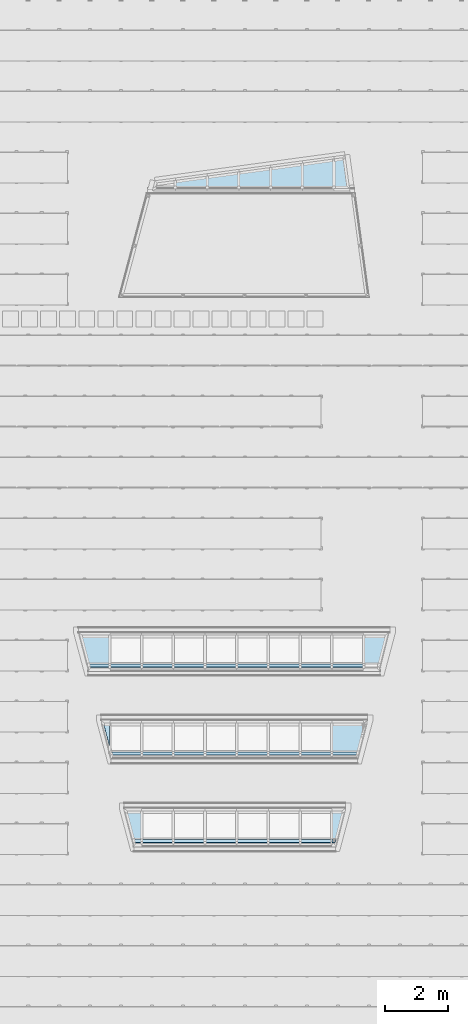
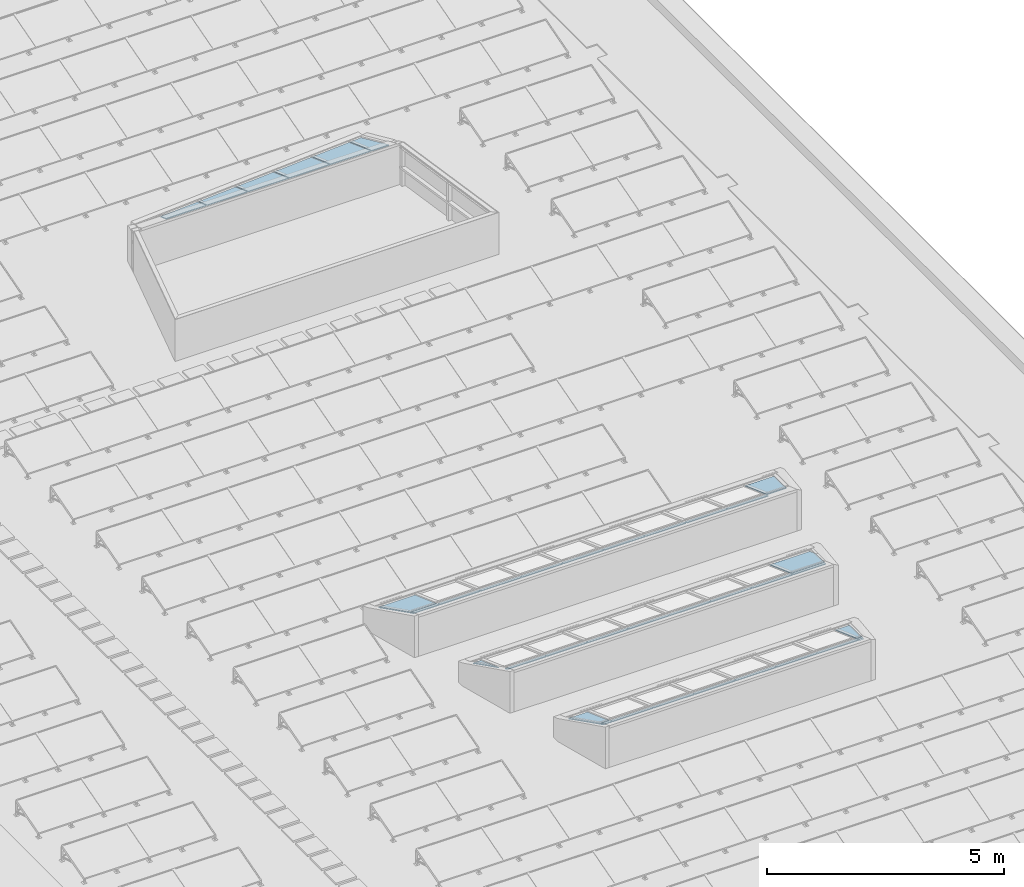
# One storey, part 5 of 20: 37 plates, 4 elements without a shape of their own.
"""IFC2X3 building model written with IfcOpenShell, lengths in millimetres."""

from ifc_helpers import new_model, entity, si_unit, converted_unit, derived_unit, money_unit, direction, frame, origin_with_axes, place, context, subcontext, project, spatial, faceted_brep, source, transform, mapped, material, type_object, type_shapes, element, aggregate, save


model = new_model("IFC2X3")

# Units and contexts
model_context = context("Model", 3, precision=0.01, world=origin_with_axes(), true_north=direction((0.0, 1.0)))
plan_context = context("Plan", 3, precision=0.01, world=origin_with_axes(), true_north=direction((0.0, 1.0)))
body_context = subcontext(model_context, "Body", "Model", "MODEL_VIEW")
ifc_project = project(units=[si_unit("LENGTHUNIT", "METRE", prefix="MILLI"), si_unit("AREAUNIT", "SQUARE_METRE"), si_unit("VOLUMEUNIT", "CUBIC_METRE"), converted_unit("PLANEANGLEUNIT", "DEGREE", entity("IfcPlaneAngleMeasure", 0.0174532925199), si_unit("PLANEANGLEUNIT", "RADIAN"), dimensions=[0, 0, 0, 0, 0, 0, 0]), si_unit("SOLIDANGLEUNIT", "STERADIAN"), money_unit("EUR"), converted_unit("TIMEUNIT", "Year", entity("IfcTimeMeasure", 31556926.0), si_unit("TIMEUNIT", "SECOND"), dimensions=[0, 0, 1, 0, 0, 0, 0]), si_unit("MASSUNIT", "GRAM", prefix="KILO"), si_unit("THERMODYNAMICTEMPERATUREUNIT", "DEGREE_CELSIUS"), si_unit("LUMINOUSINTENSITYUNIT", "LUMEN"), si_unit("ENERGYUNIT", "JOULE", prefix="MEGA"), derived_unit("THERMALCONDUCTANCEUNIT", [(si_unit("POWERUNIT", "WATT"), 1), (si_unit("LENGTHUNIT", "METRE"), -1), (si_unit("THERMODYNAMICTEMPERATUREUNIT", "KELVIN"), -1)]), derived_unit("SPECIFICHEATCAPACITYUNIT", [(si_unit("ENERGYUNIT", "JOULE"), 1), (si_unit("MASSUNIT", "GRAM", prefix="KILO"), -1), (si_unit("THERMODYNAMICTEMPERATUREUNIT", "KELVIN"), -1)]), derived_unit("MASSDENSITYUNIT", [(si_unit("MASSUNIT", "GRAM", prefix="KILO"), 1), (si_unit("VOLUMEUNIT", "CUBIC_METRE"), -1)])], contexts=[model_context, plan_context])

# Site, building, storey
site_placement = place(None, origin_with_axes())
site = spatial("IfcSite", under=ifc_project, at=site_placement, Name="Site", CompositionType="ELEMENT")
building_placement = place(site_placement, origin_with_axes())
building = spatial("IfcBuilding", under=site, at=building_placement, Name="Naam gebouw", CompositionType="ELEMENT")
storey_placement = place(building_placement, frame((0.0, 0.0, 7920.0), z_axis=(0.0, 0.0, 1.0), x_axis=(1.0, 0.0, 0.0)))
storey = spatial("IfcBuildingStorey", under=building, at=storey_placement, Name="2e verdieping", CompositionType="ELEMENT", Elevation=7920.0)

# Curtain wall, plates
curtain_wall_type = type_object("IfcCurtainWallType", Name="Curtain Wall Type", PredefinedType="NOTDEFINED")
curtain_wall_1_placement = place(storey_placement, frame((19106.1234546, 39361.8774302, 819.822664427), z_axis=(0.0, 0.0, 1.0), x_axis=(1.0, 0.0, 0.0)))
curtain_wall_1 = element("IfcCurtainWall", 1, at=curtain_wall_1_placement, inside=storey, type_object=curtain_wall_type, Name="21_Vliesgevel_Wand-x")
ifc_material_1 = material(Name="Glas")
plate_type_1 = type_object("IfcPlateType", Name="Main Panel 980 x 680 x 20", PredefinedType="CURTAIN_PANEL")
plate_1_placement = place(curtain_wall_1_placement, frame((0.0, 0.0, 236.578246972), z_axis=(0.0, 0.0, 1.0), x_axis=(-1.0, 0.0, 0.0)))
plate_1 = element("IfcPlate", 2, at=plate_1_placement, type_object=plate_type_1, material=ifc_material_1, Name="_Vliesgevel - paneel_Paneel-x", ObjectType="CURTAIN_PANEL", context=body_context, shape_type="Brep", body=[
    faceted_brep([(-490.0, 356.217328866, 119.010726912), (-490.0, 349.376925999, 137.804579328), (490.0, 349.376925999, 137.804579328), (490.0, 356.217328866, 119.010726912), (-490.0, -415.256299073, -161.782710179), (-490.0, -422.09670194, -142.988857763), (490.0, -289.366939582, -94.6791750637), (490.0, -282.526536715, -113.473027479)], [[[0, 1, 2, 3]], [[4, 5, 1, 0]], [[1, 5, 6, 2]], [[3, 2, 6, 7]], [[0, 3, 7, 4]], [[7, 6, 5, 4]]]),
])
plate_type_2 = type_object("IfcPlateType", Name="Main Panel 980 x 824 x 20", PredefinedType="CURTAIN_PANEL")
plate_2_placement = place(curtain_wall_1_placement, frame((1000.0, 67.7192747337, 211.930446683), z_axis=(0.0, 0.0, 1.0), x_axis=(-1.0, 0.0, 0.0)))
plate_2 = element("IfcPlate", 3, at=plate_2_placement, type_object=plate_type_2, material=ifc_material_1, Name="_Vliesgevel - paneel_Paneel-x", ObjectType="CURTAIN_PANEL", context=body_context, shape_type="Brep", body=[
    faceted_brep([(-490.000000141, 423.936605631, 143.658527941), (-490.000000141, 417.096202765, 162.452380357), (489.999999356, 417.096202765, 162.452380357), (489.999999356, 423.936605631, 143.658527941), (-490.000000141, -482.975600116, -186.430520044), (-490.000000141, -489.816002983, -167.636667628), (489.999999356, -357.086176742, -119.326961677), (489.999999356, -350.245773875, -138.120814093)], [[[0, 1, 2, 3]], [[4, 5, 1, 0]], [[1, 5, 6, 2]], [[3, 2, 6, 7]], [[0, 3, 7, 4]], [[7, 6, 5, 4]]]),
])
plate_type_3 = type_object("IfcPlateType", Name="Main Panel 423 x 968 x 20", PredefinedType="CURTAIN_PANEL")
plate_3_placement = place(curtain_wall_1_placement, frame((1709.25403566, 113.342371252, 195.324997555), z_axis=(0.0, 0.0, 1.0), x_axis=(-1.0, 0.0, 0.0)))
plate_3 = element("IfcPlate", 4, at=plate_3_placement, type_object=plate_type_3, material=ifc_material_1, Name="_Vliesgevel - paneel_Paneel-x", ObjectType="CURTAIN_PANEL", context=body_context, shape_type="Brep", body=[
    faceted_brep([(-223.577201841, 469.55968355, 160.263970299), (-223.577201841, 462.719280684, 179.057822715), (199.25403106, 462.719296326, 179.057828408), (199.25403106, 469.559699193, 160.263975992), (-94.9821160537, -479.912174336, -185.315524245), (-94.9821160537, -486.752577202, -166.521671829), (199.25403106, -446.901673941, -152.017129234), (199.25403106, -440.061271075, -170.810981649)], [[[0, 1, 2, 3]], [[4, 5, 1, 0]], [[1, 5, 6, 2]], [[3, 2, 6, 7]], [[0, 3, 7, 4]], [[7, 6, 5, 4]]]),
])
plate_type_4 = type_object("IfcPlateType", Name="Main Panel 980 x 536 x 20", PredefinedType="CURTAIN_PANEL")
plate_4_placement = place(curtain_wall_1_placement, frame((-1000.0, -67.7192577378, 261.226041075), z_axis=(0.0, 0.0, 1.0), x_axis=(-1.0, 0.0, 0.0)))
plate_4 = element("IfcPlate", 5, at=plate_4_placement, type_object=plate_type_4, material=ifc_material_1, Name="_Vliesgevel - paneel_Paneel-x", ObjectType="CURTAIN_PANEL", context=body_context, shape_type="Brep", body=[
    faceted_brep([(-490.0, 288.498077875, 94.3629352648), (-490.0, 281.657675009, 113.156787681), (490.0, 281.657675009, 113.156787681), (490.0, 288.498077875, 94.3629352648), (-490.0, -347.537041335, -137.134916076), (-490.0, -354.377444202, -118.34106366), (490.0, -221.647681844, -70.0313809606), (490.0, -214.807278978, -88.8252333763)], [[[0, 1, 2, 3]], [[4, 5, 1, 0]], [[1, 5, 6, 2]], [[3, 2, 6, 7]], [[0, 3, 7, 4]], [[7, 6, 5, 4]]]),
])
plate_type_5 = type_object("IfcPlateType", Name="Main Panel 980 x 247 x 20", PredefinedType="CURTAIN_PANEL")
plate_5_placement = place(curtain_wall_1_placement, frame((-3000.0, -203.157772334, 310.521628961), z_axis=(0.0, 0.0, 1.0), x_axis=(-1.0, 0.0, 0.0)))
plate_5 = element("IfcPlate", 6, at=plate_5_placement, type_object=plate_type_5, material=ifc_material_1, Name="_Vliesgevel - paneel_Paneel-x", ObjectType="CURTAIN_PANEL", context=body_context, shape_type="Brep", body=[
    faceted_brep([(-490.0, 153.059562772, 45.0673471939), (-490.0, 146.219159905, 63.8611996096), (490.0, 146.219159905, 63.8611996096), (490.0, 153.059562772, 45.0673471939), (-490.0, -212.09852498, -87.8393275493), (-490.0, -218.938927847, -69.0454751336), (490.0, -86.2091654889, -20.7357924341), (490.0, -79.3687626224, -39.5296448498)], [[[0, 1, 2, 3]], [[4, 5, 1, 0]], [[1, 5, 6, 2]], [[3, 2, 6, 7]], [[0, 3, 7, 4]], [[7, 6, 5, 4]]]),
])
plate_type_6 = type_object("IfcPlateType", Name="Main Panel 980 x 391 x 20", PredefinedType="CURTAIN_PANEL")
plate_6_placement = place(curtain_wall_1_placement, frame((-2000.0, -135.438515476, 285.873835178), z_axis=(0.0, 0.0, 1.0), x_axis=(-1.0, 0.0, 0.0)))
plate_6 = element("IfcPlate", 7, at=plate_6_placement, type_object=plate_type_6, material=ifc_material_1, Name="_Vliesgevel - paneel_Paneel-x", ObjectType="CURTAIN_PANEL", context=body_context, shape_type="Brep", body=[
    faceted_brep([(-490.0, 220.778812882, 69.7151385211), (-490.0, 213.938410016, 88.5089909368), (490.0, 213.938410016, 88.5089909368), (490.0, 220.778812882, 69.7151385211), (-490.0, -279.817783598, -112.487121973), (-490.0, -286.658186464, -93.6932695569), (490.0, -153.928424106, -45.3835868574), (490.0, -147.08802124, -64.1774392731)], [[[0, 1, 2, 3]], [[4, 5, 1, 0]], [[1, 5, 6, 2]], [[3, 2, 6, 7]], [[0, 3, 7, 4]], [[7, 6, 5, 4]]]),
])
aggregate(curtain_wall_1, [plate_1, plate_2, plate_3, plate_4, plate_5, plate_6])

curtain_wall_2_placement = place(storey_placement, frame((13117.0960946, 24464.1241022, 780.165825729), z_axis=(0.0, 0.0, 1.0), x_axis=(1.0, 0.0, 0.0)))
curtain_wall_2 = element("IfcCurtainWall", 8, at=curtain_wall_2_placement, inside=storey, type_object=curtain_wall_type, Name="21_Vliesgevel_Wand-x")
plate_type_7 = type_object("IfcPlateType", Name="Main Panel 897 x 972 x 20", PredefinedType="CURTAIN_PANEL")
plate_7_placement = place(curtain_wall_2_placement, frame((0.0, 0.0, 175.675530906), z_axis=(0.0, 0.0, 1.0), x_axis=(-1.0, 0.0, 0.0)))
plate_7 = element("IfcPlate", 9, at=plate_7_placement, type_object=plate_type_7, material=ifc_material_1, Name="_Vliesgevel - paneel_Paneel-x", ObjectType="CURTAIN_PANEL", context=body_context, shape_type="Brep", body=[
    faceted_brep([(-412.028729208, 481.38631681, 164.568512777), (-412.028729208, 474.545913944, 183.362365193), (244.542459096, 474.545913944, 183.362365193), (244.542459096, 481.38631681, 164.568512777), (-412.028729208, -432.259751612, -167.971460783), (-412.028729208, -439.100154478, -149.177608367), (485.348411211, -439.100140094, -149.177603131), (485.348411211, -432.259737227, -167.971455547)], [[[0, 1, 2, 3]], [[4, 5, 1, 0]], [[1, 5, 6, 2]], [[3, 2, 6, 7]], [[0, 3, 7, 4]], [[7, 6, 5, 4]]]),
])
plate_type_8 = type_object("IfcPlateType", Name="Main Panel 477 x 972 x 20", PredefinedType="CURTAIN_PANEL")
plate_8_placement = place(curtain_wall_2_placement, frame((8751.81492856, -8.1607645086e-06, 175.675533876), z_axis=(0.0, 0.0, 1.0), x_axis=(-1.0, 0.0, 0.0)))
plate_8 = element("IfcPlate", 10, at=plate_8_placement, type_object=plate_type_8, material=ifc_material_1, Name="_Vliesgevel - paneel_Paneel-x", ObjectType="CURTAIN_PANEL", context=body_context, shape_type="Brep", body=[
    faceted_brep([(-157.45969636, 481.386308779, 164.568509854), (-157.45969636, 474.545905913, 183.36236227), (319.786191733, 474.545905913, 183.36236227), (319.786191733, 481.386308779, 164.568509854), (-388.626103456, -432.259734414, -167.971454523), (-388.626103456, -439.10013728, -149.177602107), (319.786191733, -439.10013728, -149.177602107), (319.786191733, -432.259734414, -167.971454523)], [[[0, 1, 2, 3]], [[4, 5, 1, 0]], [[1, 5, 6, 2]], [[3, 2, 6, 7]], [[0, 3, 7, 4]], [[7, 6, 5, 4]]]),
])

# Curtain wall, plate
curtain_wall_3_placement = place(storey_placement, frame((20039.1248272, 18928.1634329, 780.165825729), z_axis=(0.0, 0.0, 1.0), x_axis=(1.0, 0.0, 0.0)))
curtain_wall_3 = element("IfcCurtainWall", 11, at=curtain_wall_3_placement, inside=storey, type_object=curtain_wall_type, Name="21_Vliesgevel_Wand-x")
plate_9_placement = place(curtain_wall_3_placement, frame((-5711.67201613, -1.77234120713e-05, 175.675535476), z_axis=(0.0, 0.0, 1.0), x_axis=(-1.0, 0.0, 0.0)))
plate_9 = element("IfcPlate", 12, at=plate_9_placement, type_object=plate_type_8, material=ifc_material_1, Name="_Vliesgevel - paneel_Paneel-x", ObjectType="CURTAIN_PANEL", context=body_context, shape_type="Brep", body=[
    faceted_brep([(-201.672020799, 481.386304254, 164.568508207), (-201.672020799, 474.545901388, 183.362360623), (34.1857609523, 474.545901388, 183.362360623), (34.1857609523, 481.386304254, 164.568508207), (-201.672020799, -432.259764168, -167.971465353), (-201.672020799, -439.100167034, -149.177612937), (274.991667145, -439.100109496, -149.177591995), (274.991667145, -432.25970663, -167.971444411)], [[[0, 1, 2, 3]], [[4, 5, 1, 0]], [[1, 5, 6, 2]], [[3, 2, 6, 7]], [[0, 3, 7, 4]], [[7, 6, 5, 4]]]),
])

# Plate
plate_type_9 = type_object("IfcPlateType", Name="Main Panel 654 x 100 x 20", PredefinedType="CURTAIN_PANEL")
plate_10_placement = place(curtain_wall_2_placement, frame((73.2026246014, -555.478614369, 377.853212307), z_axis=(0.0, 0.0, 1.0), x_axis=(-1.0, 0.0, 0.0)))
plate_10 = element("IfcPlate", 13, at=plate_10_placement, type_object=plate_type_9, material=ifc_material_1, Name="_Vliesgevel - paneel_Paneel-x", ObjectType="CURTAIN_PANEL", context=body_context, shape_type="Brep", body=[
    faceted_brep([(-338.826106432, 29.2496039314, 0.00420747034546), (-338.826106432, 22.4092010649, 18.7980598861), (290.507648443, 22.4092010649, 18.7980598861), (290.507648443, 29.2496039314, 0.00420747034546), (-338.826106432, -64.6953735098, -34.1889679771), (-338.826106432, -71.5357763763, -15.3951155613), (315.26837188, -71.5357763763, -15.3951155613), (315.26837188, -64.6953735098, -34.1889679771)], [[[0, 1, 2, 3]], [[4, 5, 1, 0]], [[1, 5, 6, 2]], [[3, 2, 6, 7]], [[0, 3, 7, 4]], [[7, 6, 5, 4]]]),
])

ifc_material_2 = material(Name="Metaal - Aluminium")
plate_type_10 = type_object("IfcPlateType", Name="Distinct Panel 980 x 100 x 20", PredefinedType="CURTAIN_PANEL")
shared_shape_1 = source(origin_with_axes(), body_context, "Body", "Brep", [
    faceted_brep([(-990.0, 104.974131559, -10.0), (-990.0, 104.974131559, 10.0), (-10.0, 104.974146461, 10.0), (-10.0, 104.974146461, -10.0), (-990.0, 5.0, -10.0), (-990.0, 5.0, 10.0), (-10.0, 5.0, 10.0), (-10.0, 5.0, -10.0)], [[[0, 1, 2, 3]], [[4, 5, 1, 0]], [[1, 5, 6, 2]], [[3, 2, 6, 7]], [[0, 3, 7, 4]], [[7, 6, 5, 4]]]),
])
type_shapes(plate_type_10, [shared_shape_1])
plate_11_placement = place(curtain_wall_2_placement, frame((922.028732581, -555.478608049, 377.853210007), z_axis=(0.0, 0.0, 1.0), x_axis=(-1.0, 0.0, 0.0)))
plate_11 = element("IfcPlate", 14, at=plate_11_placement, type_object=plate_type_10, material=ifc_material_2, Name="_Vliesgevel - paneel_Paneel-x", ObjectType="CURTAIN_PANEL", context=body_context, shape_type="MappedRepresentation", body=[
    mapped(shared_shape_1, transform((500.0, -72.8140274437, -26.5021386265), x_axis=(1.0, 0.0, 0.0), y_axis=(0.0, 0.939692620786, 0.342020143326), z_axis=(0.0, -0.342020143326, 0.939692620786))),
])

plate_12_placement = place(curtain_wall_2_placement, frame((2922.02873258, -555.478601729, 377.853207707), z_axis=(0.0, 0.0, 1.0), x_axis=(-1.0, 0.0, 0.0)))
plate_12 = element("IfcPlate", 15, at=plate_12_placement, type_object=plate_type_10, material=ifc_material_2, Name="_Vliesgevel - paneel_Paneel-x", ObjectType="CURTAIN_PANEL", context=body_context, shape_type="MappedRepresentation", body=[
    mapped(shared_shape_1, transform((500.0, -72.8140211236, -26.5021363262), x_axis=(1.0, 0.0, 0.0), y_axis=(0.0, 0.939692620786, 0.342020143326), z_axis=(0.0, -0.342020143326, 0.939692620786))),
])

plate_13_placement = place(curtain_wall_2_placement, frame((4922.02873258, -555.478601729, 377.853207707), z_axis=(0.0, 0.0, 1.0), x_axis=(-1.0, 0.0, 0.0)))
plate_13 = element("IfcPlate", 16, at=plate_13_placement, type_object=plate_type_10, material=ifc_material_2, Name="_Vliesgevel - paneel_Paneel-x", ObjectType="CURTAIN_PANEL", context=body_context, shape_type="MappedRepresentation", body=[
    mapped(shared_shape_1, transform((500.0, -72.8140211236, -26.5021363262), x_axis=(1.0, 0.0, 0.0), y_axis=(0.0, 0.939692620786, 0.342020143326), z_axis=(0.0, -0.342020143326, 0.939692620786))),
])

plate_14_placement = place(curtain_wall_2_placement, frame((6922.02873258, -555.478601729, 377.853207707), z_axis=(0.0, 0.0, 1.0), x_axis=(-1.0, 0.0, 0.0)))
plate_14 = element("IfcPlate", 17, at=plate_14_placement, type_object=plate_type_10, material=ifc_material_2, Name="_Vliesgevel - paneel_Paneel-x", ObjectType="CURTAIN_PANEL", context=body_context, shape_type="MappedRepresentation", body=[
    mapped(shared_shape_1, transform((500.0, -72.8140211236, -26.5021363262), x_axis=(1.0, 0.0, 0.0), y_axis=(0.0, 0.939692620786, 0.342020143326), z_axis=(0.0, -0.342020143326, 0.939692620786))),
])

# Curtain wall, plates
curtain_wall_4_placement = place(storey_placement, frame((20039.1248272, 21694.0652432, 780.165825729), z_axis=(0.0, 0.0, 1.0), x_axis=(1.0, 0.0, 0.0)))
curtain_wall_4 = element("IfcCurtainWall", 18, at=curtain_wall_4_placement, inside=storey, type_object=curtain_wall_type, Name="21_Vliesgevel_Wand-x")
plate_15_placement = place(curtain_wall_4_placement, frame((0.0, -555.478606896, 377.853207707), z_axis=(0.0, 0.0, 1.0), x_axis=(-1.0, 0.0, 0.0)))
plate_15 = element("IfcPlate", 19, at=plate_15_placement, type_object=plate_type_10, material=ifc_material_2, Name="_Vliesgevel - paneel_Paneel-x", ObjectType="CURTAIN_PANEL", context=body_context, shape_type="MappedRepresentation", body=[
    mapped(shared_shape_1, transform((500.0, -72.8140211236, -26.5021363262), x_axis=(1.0, 0.0, 0.0), y_axis=(0.0, 0.939692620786, 0.342020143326), z_axis=(0.0, -0.342020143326, 0.939692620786))),
])
plate_16_placement = place(curtain_wall_4_placement, frame((-2000.0, -555.478606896, 377.853207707), z_axis=(0.0, 0.0, 1.0), x_axis=(-1.0, 0.0, 0.0)))
plate_16 = element("IfcPlate", 20, at=plate_16_placement, type_object=plate_type_10, material=ifc_material_2, Name="_Vliesgevel - paneel_Paneel-x", ObjectType="CURTAIN_PANEL", context=body_context, shape_type="MappedRepresentation", body=[
    mapped(shared_shape_1, transform((500.0, -72.8140211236, -26.5021363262), x_axis=(1.0, 0.0, 0.0), y_axis=(0.0, 0.939692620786, 0.342020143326), z_axis=(0.0, -0.342020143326, 0.939692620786))),
])
plate_17_placement = place(curtain_wall_4_placement, frame((-4000.0, -555.478606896, 377.853207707), z_axis=(0.0, 0.0, 1.0), x_axis=(-1.0, 0.0, 0.0)))
plate_17 = element("IfcPlate", 21, at=plate_17_placement, type_object=plate_type_10, material=ifc_material_2, Name="_Vliesgevel - paneel_Paneel-x", ObjectType="CURTAIN_PANEL", context=body_context, shape_type="MappedRepresentation", body=[
    mapped(shared_shape_1, transform((500.0, -72.8140211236, -26.5021363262), x_axis=(1.0, 0.0, 0.0), y_axis=(0.0, 0.939692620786, 0.342020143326), z_axis=(0.0, -0.342020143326, 0.939692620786))),
])

# Plate
plate_18_placement = place(curtain_wall_3_placement, frame((0.0, -555.478606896, 377.853207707), z_axis=(0.0, 0.0, 1.0), x_axis=(-1.0, 0.0, 0.0)))
plate_18 = element("IfcPlate", 22, at=plate_18_placement, type_object=plate_type_10, material=ifc_material_2, Name="_Vliesgevel - paneel_Paneel-x", ObjectType="CURTAIN_PANEL", context=body_context, shape_type="MappedRepresentation", body=[
    mapped(shared_shape_1, transform((500.0, -72.8140211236, -26.5021363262), x_axis=(1.0, 0.0, 0.0), y_axis=(0.0, 0.939692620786, 0.342020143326), z_axis=(0.0, -0.342020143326, 0.939692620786))),
])

plate_19_placement = place(curtain_wall_3_placement, frame((-2000.0, -555.478606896, 377.853207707), z_axis=(0.0, 0.0, 1.0), x_axis=(-1.0, 0.0, 0.0)))
plate_19 = element("IfcPlate", 23, at=plate_19_placement, type_object=plate_type_10, material=ifc_material_2, Name="_Vliesgevel - paneel_Paneel-x", ObjectType="CURTAIN_PANEL", context=body_context, shape_type="MappedRepresentation", body=[
    mapped(shared_shape_1, transform((500.0, -72.8140211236, -26.5021363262), x_axis=(1.0, 0.0, 0.0), y_axis=(0.0, 0.939692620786, 0.342020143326), z_axis=(0.0, -0.342020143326, 0.939692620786))),
])

plate_20_placement = place(curtain_wall_3_placement, frame((-4000.0, -555.478606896, 377.853207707), z_axis=(0.0, 0.0, 1.0), x_axis=(-1.0, 0.0, 0.0)))
plate_20 = element("IfcPlate", 24, at=plate_20_placement, type_object=plate_type_10, material=ifc_material_2, Name="_Vliesgevel - paneel_Paneel-x", ObjectType="CURTAIN_PANEL", context=body_context, shape_type="MappedRepresentation", body=[
    mapped(shared_shape_1, transform((500.0, -72.8140211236, -26.5021363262), x_axis=(1.0, 0.0, 0.0), y_axis=(0.0, 0.939692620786, 0.342020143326), z_axis=(0.0, -0.342020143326, 0.939692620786))),
])

plate_type_11 = type_object("IfcPlateType", Name="Main Panel 980 x 100 x 20", PredefinedType="CURTAIN_PANEL")
shared_shape_2 = source(origin_with_axes(), body_context, "Body", "Brep", [
    faceted_brep([(-990.0, 104.974131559, -10.0), (-990.0, 104.974131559, 10.0), (-10.0, 104.974131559, 10.0), (-10.0, 104.974131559, -10.0), (-990.0, 5.0, -10.0), (-990.0, 5.0, 10.0), (-10.0, 5.0, 10.0), (-10.0, 5.0, -10.0)], [[[0, 1, 2, 3]], [[4, 5, 1, 0]], [[1, 5, 6, 2]], [[3, 2, 6, 7]], [[0, 3, 7, 4]], [[7, 6, 5, 4]]]),
])
type_shapes(plate_type_11, [shared_shape_2])
plate_21_placement = place(curtain_wall_2_placement, frame((1922.02873258, -555.478601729, 377.853207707), z_axis=(0.0, 0.0, 1.0), x_axis=(-1.0, 0.0, 0.0)))
plate_21 = element("IfcPlate", 25, at=plate_21_placement, type_object=plate_type_11, material=ifc_material_1, Name="_Vliesgevel - paneel_Paneel-x", ObjectType="CURTAIN_PANEL", context=body_context, shape_type="MappedRepresentation", body=[
    mapped(shared_shape_2, transform((500.0, -72.8140211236, -26.5021363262), x_axis=(1.0, 0.0, 0.0), y_axis=(0.0, 0.939692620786, 0.342020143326), z_axis=(0.0, -0.342020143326, 0.939692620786))),
])

plate_22_placement = place(curtain_wall_2_placement, frame((3922.02873258, -555.478601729, 377.853207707), z_axis=(0.0, 0.0, 1.0), x_axis=(-1.0, 0.0, 0.0)))
plate_22 = element("IfcPlate", 26, at=plate_22_placement, type_object=plate_type_11, material=ifc_material_1, Name="_Vliesgevel - paneel_Paneel-x", ObjectType="CURTAIN_PANEL", context=body_context, shape_type="MappedRepresentation", body=[
    mapped(shared_shape_2, transform((500.0, -72.8140211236, -26.5021363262), x_axis=(1.0, 0.0, 0.0), y_axis=(0.0, 0.939692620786, 0.342020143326), z_axis=(0.0, -0.342020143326, 0.939692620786))),
])

plate_23_placement = place(curtain_wall_2_placement, frame((5922.02873258, -555.478601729, 377.853207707), z_axis=(0.0, 0.0, 1.0), x_axis=(-1.0, 0.0, 0.0)))
plate_23 = element("IfcPlate", 27, at=plate_23_placement, type_object=plate_type_11, material=ifc_material_1, Name="_Vliesgevel - paneel_Paneel-x", ObjectType="CURTAIN_PANEL", context=body_context, shape_type="MappedRepresentation", body=[
    mapped(shared_shape_2, transform((500.0, -72.8140211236, -26.5021363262), x_axis=(1.0, 0.0, 0.0), y_axis=(0.0, 0.939692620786, 0.342020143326), z_axis=(0.0, -0.342020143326, 0.939692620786))),
])

plate_24_placement = place(curtain_wall_2_placement, frame((7922.02873258, -555.478601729, 377.853207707), z_axis=(0.0, 0.0, 1.0), x_axis=(-1.0, 0.0, 0.0)))
plate_24 = element("IfcPlate", 28, at=plate_24_placement, type_object=plate_type_11, material=ifc_material_1, Name="_Vliesgevel - paneel_Paneel-x", ObjectType="CURTAIN_PANEL", context=body_context, shape_type="MappedRepresentation", body=[
    mapped(shared_shape_2, transform((500.0, -72.8140211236, -26.5021363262), x_axis=(1.0, 0.0, 0.0), y_axis=(0.0, 0.939692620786, 0.342020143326), z_axis=(0.0, -0.342020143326, 0.939692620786))),
])

aggregate(curtain_wall_2, [plate_7, plate_8, plate_10, plate_11, plate_21, plate_12, plate_22, plate_13, plate_23, plate_14, plate_24])

plate_25_placement = place(curtain_wall_4_placement, frame((-1000.0, -555.478606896, 377.853207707), z_axis=(0.0, 0.0, 1.0), x_axis=(-1.0, 0.0, 0.0)))
plate_25 = element("IfcPlate", 29, at=plate_25_placement, type_object=plate_type_11, material=ifc_material_1, Name="_Vliesgevel - paneel_Paneel-x", ObjectType="CURTAIN_PANEL", context=body_context, shape_type="MappedRepresentation", body=[
    mapped(shared_shape_2, transform((500.0, -72.8140211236, -26.5021363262), x_axis=(1.0, 0.0, 0.0), y_axis=(0.0, 0.939692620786, 0.342020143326), z_axis=(0.0, -0.342020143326, 0.939692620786))),
])

plate_26_placement = place(curtain_wall_4_placement, frame((-3000.0, -555.478606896, 377.853207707), z_axis=(0.0, 0.0, 1.0), x_axis=(-1.0, 0.0, 0.0)))
plate_26 = element("IfcPlate", 30, at=plate_26_placement, type_object=plate_type_11, material=ifc_material_1, Name="_Vliesgevel - paneel_Paneel-x", ObjectType="CURTAIN_PANEL", context=body_context, shape_type="MappedRepresentation", body=[
    mapped(shared_shape_2, transform((500.0, -72.8140211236, -26.5021363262), x_axis=(1.0, 0.0, 0.0), y_axis=(0.0, 0.939692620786, 0.342020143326), z_axis=(0.0, -0.342020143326, 0.939692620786))),
])

plate_27_placement = place(curtain_wall_4_placement, frame((-5000.0, -555.478606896, 377.853207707), z_axis=(0.0, 0.0, 1.0), x_axis=(-1.0, 0.0, 0.0)))
plate_27 = element("IfcPlate", 31, at=plate_27_placement, type_object=plate_type_11, material=ifc_material_1, Name="_Vliesgevel - paneel_Paneel-x", ObjectType="CURTAIN_PANEL", context=body_context, shape_type="MappedRepresentation", body=[
    mapped(shared_shape_2, transform((500.0, -72.8140211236, -26.5021363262), x_axis=(1.0, 0.0, 0.0), y_axis=(0.0, 0.939692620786, 0.342020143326), z_axis=(0.0, -0.342020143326, 0.939692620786))),
])

plate_28_placement = place(curtain_wall_3_placement, frame((-1000.0, -555.478606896, 377.853207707), z_axis=(0.0, 0.0, 1.0), x_axis=(-1.0, 0.0, 0.0)))
plate_28 = element("IfcPlate", 32, at=plate_28_placement, type_object=plate_type_11, material=ifc_material_1, Name="_Vliesgevel - paneel_Paneel-x", ObjectType="CURTAIN_PANEL", context=body_context, shape_type="MappedRepresentation", body=[
    mapped(shared_shape_2, transform((500.0, -72.8140211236, -26.5021363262), x_axis=(1.0, 0.0, 0.0), y_axis=(0.0, 0.939692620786, 0.342020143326), z_axis=(0.0, -0.342020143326, 0.939692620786))),
])

plate_29_placement = place(curtain_wall_3_placement, frame((-3000.0, -555.478606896, 377.853207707), z_axis=(0.0, 0.0, 1.0), x_axis=(-1.0, 0.0, 0.0)))
plate_29 = element("IfcPlate", 33, at=plate_29_placement, type_object=plate_type_11, material=ifc_material_1, Name="_Vliesgevel - paneel_Paneel-x", ObjectType="CURTAIN_PANEL", context=body_context, shape_type="MappedRepresentation", body=[
    mapped(shared_shape_2, transform((500.0, -72.8140211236, -26.5021363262), x_axis=(1.0, 0.0, 0.0), y_axis=(0.0, 0.939692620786, 0.342020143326), z_axis=(0.0, -0.342020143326, 0.939692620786))),
])

plate_30_placement = place(curtain_wall_3_placement, frame((-5000.0, -555.478606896, 377.853207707), z_axis=(0.0, 0.0, 1.0), x_axis=(-1.0, 0.0, 0.0)))
plate_30 = element("IfcPlate", 34, at=plate_30_placement, type_object=plate_type_11, material=ifc_material_1, Name="_Vliesgevel - paneel_Paneel-x", ObjectType="CURTAIN_PANEL", context=body_context, shape_type="MappedRepresentation", body=[
    mapped(shared_shape_2, transform((500.0, -72.8140211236, -26.5021363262), x_axis=(1.0, 0.0, 0.0), y_axis=(0.0, 0.939692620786, 0.342020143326), z_axis=(0.0, -0.342020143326, 0.939692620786))),
])

plate_type_12 = type_object("IfcPlateType", Name="Main Panel 807 x 972 x 20", PredefinedType="CURTAIN_PANEL")
plate_31_placement = place(curtain_wall_4_placement, frame((1073.40997743, 8.55958714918, 172.560094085), z_axis=(0.0, 0.0, 1.0), x_axis=(-1.0, 0.0, 0.0)))
plate_31 = element("IfcPlate", 35, at=plate_31_placement, type_object=plate_type_12, material=ifc_material_1, Name="_Vliesgevel - paneel_Paneel-x", ObjectType="CURTAIN_PANEL", context=body_context, shape_type="Brep", body=[
    faceted_brep([(-243.434908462, 489.945909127, 167.683949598), (-243.434908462, 483.10550626, 186.477802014), (563.409972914, 483.10550626, 186.477802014), (563.409972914, 489.945909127, 167.683949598), (-416.590026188, -194.420038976, -81.4048848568), (-416.590026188, -201.260441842, -62.6110324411), (-416.590026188, -430.540547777, -146.062166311), (563.409972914, -430.540562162, -146.062171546), (563.409972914, -423.700159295, -164.856023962), (-416.590026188, -423.700144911, -164.856018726)], [[[0, 1, 2, 3]], [[4, 5, 1, 0]], [[1, 5, 6, 7, 2]], [[3, 2, 7, 8]], [[0, 3, 8, 9, 4]], [[9, 6, 5, 4]], [[8, 7, 6, 9]]]),
])

plate_type_13 = type_object("IfcPlateType", Name="Main Panel 197 x 795 x 20", PredefinedType="CURTAIN_PANEL")
plate_32_placement = place(curtain_wall_4_placement, frame((-6571.78309348, -2.11804334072e-05, 175.675536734), z_axis=(0.0, 0.0, 1.0), x_axis=(-1.0, 0.0, 0.0)))
plate_32 = element("IfcPlate", 36, at=plate_32_placement, type_object=plate_type_13, material=ifc_material_1, Name="_Vliesgevel - paneel_Paneel-x", ObjectType="CURTAIN_PANEL", context=body_context, shape_type="Brep", body=[
    faceted_brep([(-61.7830978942, 314.748461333, 103.917293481), (-61.7830978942, 307.908058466, 122.711145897), (135.102761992, -439.100112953, -149.177593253), (135.102761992, -432.259710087, -167.971445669), (-61.7830978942, -432.259767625, -167.971466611), (-61.7830978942, -439.100170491, -149.177614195)], [[[0, 1, 2, 3]], [[4, 5, 1, 0]], [[1, 5, 2]], [[3, 2, 5, 4]], [[0, 3, 4]]]),
])

plate_type_14 = type_object("IfcPlateType", Name="Main Panel 781 x 100 x 20", PredefinedType="CURTAIN_PANEL")
plate_33_placement = place(curtain_wall_4_placement, frame((924.313406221, -555.478608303, 377.853208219), z_axis=(0.0, 0.0, 1.0), x_axis=(-1.0, 0.0, 0.0)))
plate_33 = element("IfcPlate", 37, at=plate_33_placement, type_object=plate_type_14, material=ifc_material_1, Name="_Vliesgevel - paneel_Paneel-x", ObjectType="CURTAIN_PANEL", context=body_context, shape_type="Brep", body=[
    faceted_brep([(-366.384389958, 29.2496016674, 0.00420664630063), (-366.384389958, 22.4091988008, 18.798059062), (414.313407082, 22.4091866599, 18.7980546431), (414.313407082, 29.2495895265, 0.00420222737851), (-390.153906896, -64.6953583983, -34.1889624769), (-390.153906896, -71.5357612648, -15.3951100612), (414.313407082, -71.5357612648, -15.3951100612), (414.313407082, -64.6953583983, -34.1889624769)], [[[0, 1, 2, 3]], [[4, 5, 1, 0]], [[1, 5, 6, 2]], [[3, 2, 6, 7]], [[0, 3, 7, 4]], [[7, 6, 5, 4]]]),
])

plate_type_15 = type_object("IfcPlateType", Name="Distinct Panel 954 x 100 x 20", PredefinedType="CURTAIN_PANEL")
plate_34_placement = place(curtain_wall_4_placement, frame((-6095.59395338, -553.324323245, 377.069112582), z_axis=(0.0, 0.0, 1.0), x_axis=(-1.0, 0.0, 0.0)))
plate_34 = element("IfcPlate", 38, at=plate_34_placement, type_object=plate_type_15, material=ifc_material_2, Name="_Vliesgevel - paneel_Paneel-x", ObjectType="CURTAIN_PANEL", context=body_context, shape_type="Brep", body=[
    faceted_brep([(-585.59395338, 31.4038769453, 0.788298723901), (-585.59395338, 24.5634740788, 19.5821511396), (343.248642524, 24.5634880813, 19.5821562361), (343.248642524, 31.4038909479, 0.788303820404), (-585.59395338, -62.5410767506, -33.4048680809), (-585.59395338, -69.3814796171, -14.6110156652), (368.009284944, -69.3814796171, -14.6110156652), (368.009284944, -62.5410767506, -33.4048680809)], [[[0, 1, 2, 3]], [[4, 5, 1, 0]], [[1, 5, 6, 2]], [[3, 2, 6, 7]], [[0, 3, 7, 4]], [[7, 6, 5, 4]]]),
])

aggregate(curtain_wall_4, [plate_31, plate_32, plate_33, plate_15, plate_25, plate_16, plate_26, plate_17, plate_27, plate_34])

plate_type_16 = type_object("IfcPlateType", Name="Main Panel 117 x 972 x 20", PredefinedType="CURTAIN_PANEL")
plate_35_placement = place(curtain_wall_3_placement, frame((649.910224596, -2.81185563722e-06, 175.675530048), z_axis=(0.0, 0.0, 1.0), x_axis=(-1.0, 0.0, 0.0)))
plate_35 = element("IfcPlate", 39, at=plate_35_placement, type_object=plate_type_16, material=ifc_material_1, Name="_Vliesgevel - paneel_Paneel-x", ObjectType="CURTAIN_PANEL", context=body_context, shape_type="Brep", body=[
    faceted_brep([(22.4162823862, 481.386319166, 164.568513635), (22.4162823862, 474.545916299, 183.36236605), (139.910220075, 474.545916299, 183.36236605), (139.910220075, 481.386319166, 164.568513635), (-208.750131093, -432.259749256, -167.971459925), (-208.750131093, -439.100152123, -149.17760751), (139.910220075, -439.100152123, -149.17760751), (139.910220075, -432.259749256, -167.971459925)], [[[0, 1, 2, 3]], [[4, 5, 1, 0]], [[1, 5, 6, 2]], [[3, 2, 6, 7]], [[0, 3, 7, 4]], [[7, 6, 5, 4]]]),
])

plate_type_17 = type_object("IfcPlateType", Name="Distinct Panel 233 x 100 x 20", PredefinedType="CURTAIN_PANEL")
plate_36_placement = place(curtain_wall_3_placement, frame((-5638.46941238, -555.478608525, 377.8532083), z_axis=(0.0, 0.0, 1.0), x_axis=(-1.0, 0.0, 0.0)))
plate_36 = element("IfcPlate", 40, at=plate_36_placement, type_object=plate_type_17, material=ifc_material_2, Name="_Vliesgevel - paneel_Paneel-x", ObjectType="CURTAIN_PANEL", context=body_context, shape_type="Brep", body=[
    faceted_brep([(-128.469409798, 29.2495916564, 0.00420300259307), (-128.469409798, 22.4091887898, 18.7980554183), (80.1509559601, 22.4091929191, 18.7980569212), (80.1509559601, 29.2495957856, 0.00420450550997), (-128.469409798, -64.6953611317, -34.1889634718), (-128.469409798, -71.5357639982, -15.3951110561), (104.911661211, -71.5357639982, -15.3951110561), (104.911661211, -64.6953611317, -34.1889634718)], [[[0, 1, 2, 3]], [[4, 5, 1, 0]], [[1, 5, 6, 2]], [[3, 2, 6, 7]], [[0, 3, 7, 4]], [[7, 6, 5, 4]]]),
])

plate_type_18 = type_object("IfcPlateType", Name="Main Panel 91 x 100 x 20", PredefinedType="CURTAIN_PANEL")
plate_37_placement = place(curtain_wall_3_placement, frame((579.637924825, -555.478627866, 377.853215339), z_axis=(0.0, 0.0, 1.0), x_axis=(-1.0, 0.0, 0.0)))
plate_37 = element("IfcPlate", 41, at=plate_37_placement, type_object=plate_type_18, material=ifc_material_1, Name="_Vliesgevel - paneel_Paneel-x", ObjectType="CURTAIN_PANEL", context=body_context, shape_type="Brep", body=[
    faceted_brep([(-21.7089065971, 29.2496304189, 0.00421711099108), (-21.7089065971, 22.4092275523, 18.7980695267), (69.6379245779, 22.4091728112, 18.7980496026), (69.6379245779, 29.2495756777, 0.00419718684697), (-45.4784452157, -64.6953786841, -34.1889698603), (-45.4784452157, -71.5357815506, -15.3951174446), (69.6379245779, -71.5357815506, -15.3951174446), (69.6379245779, -64.6953786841, -34.1889698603)], [[[0, 1, 2, 3]], [[4, 5, 1, 0]], [[1, 5, 6, 2]], [[3, 2, 6, 7]], [[0, 3, 7, 4]], [[7, 6, 5, 4]]]),
])

aggregate(curtain_wall_3, [plate_35, plate_18, plate_28, plate_19, plate_29, plate_20, plate_30, plate_9, plate_36, plate_37])

save(model, "model.ifc")
